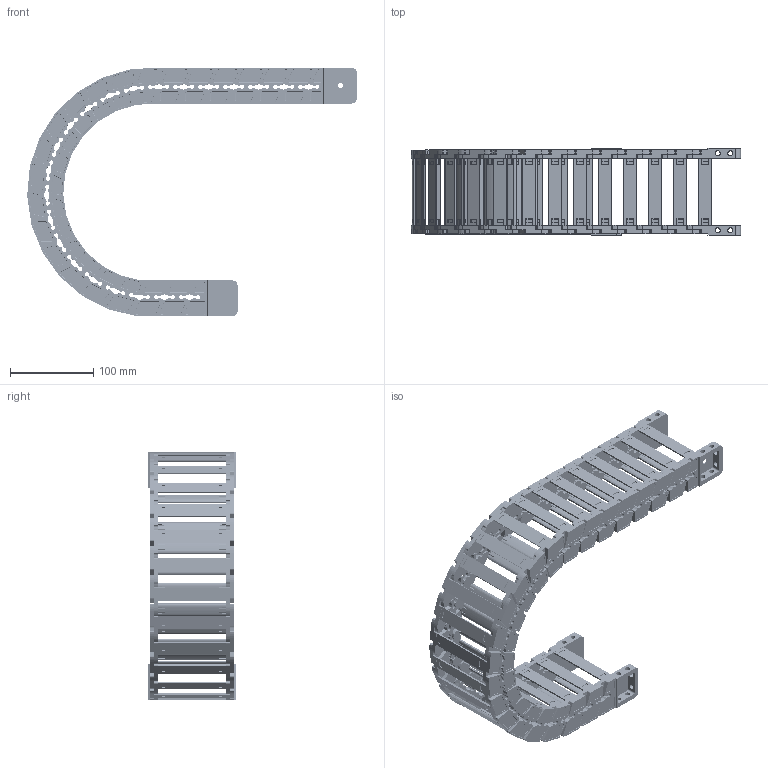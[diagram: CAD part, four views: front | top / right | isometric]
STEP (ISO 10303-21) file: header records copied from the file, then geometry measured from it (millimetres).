
FILE_DESCRIPTION((''),'2;1');
FILE_NAME('JY-35X80-R125_ASM','2025-01-05T19:45:45',('admin'),(''),'CREO PARAMETRIC BY PTC INC, 2021023','CREO PARAMETRIC BY PTC INC, 2021023','');
FILE_SCHEMA(('CONFIG_CONTROL_DESIGN'));
Length unit declared in the file: millimetre
Products named in the file (11): 35XL-L; YP; 35XL-R; ASM0001_ASM; 35-LTT-A-L; 35-LTT-A-R; 35XL-LTT-A_ASM; 35-LTT-B-L; 35-LTT-B-R; 35XL-LTT-B_ASM; JY-35X80-R125_ASM
Assembly tree (35 placements, depth 3):
  JY-35X80-R125_ASM
    ASM0001_ASM  x21
      35XL-L
      YP
      35XL-R
    35XL-LTT-A_ASM
      35-LTT-A-L
      YP  x2
      35-LTT-A-R
    35XL-LTT-B_ASM
      35-LTT-B-L
      YP  x2
      35-LTT-B-R
Bounding box: 395.09 x 104.5 x 298.23 mm (x, y, z)
Volume: 682081.1 mm3; surface area: 409229.7 mm2
Topology: 92 solids, 92 shells, 7504 faces, 22500 edges, 15188 vertices
Faces by surface type: plane 4246, cylinder 2466, cone 484, extrusion 176, bspline 132
Entity records: 27890 total; most frequent: CARTESIAN_POINT 6168, ORIENTED_EDGE 4640, DIRECTION 4365, EDGE_CURVE 2320, VERTEX_POINT 1568, AXIS2_PLACEMENT_3D 1474, VECTOR 1417, LINE 1401
